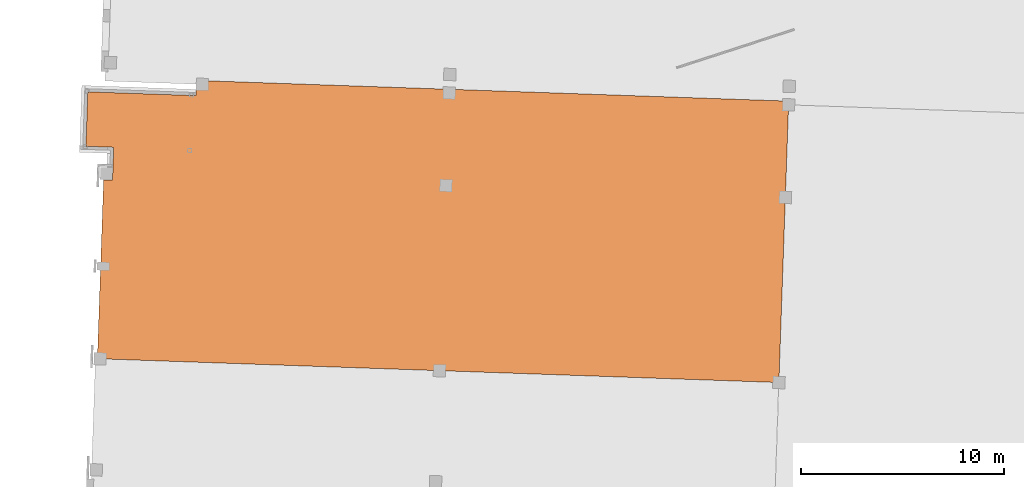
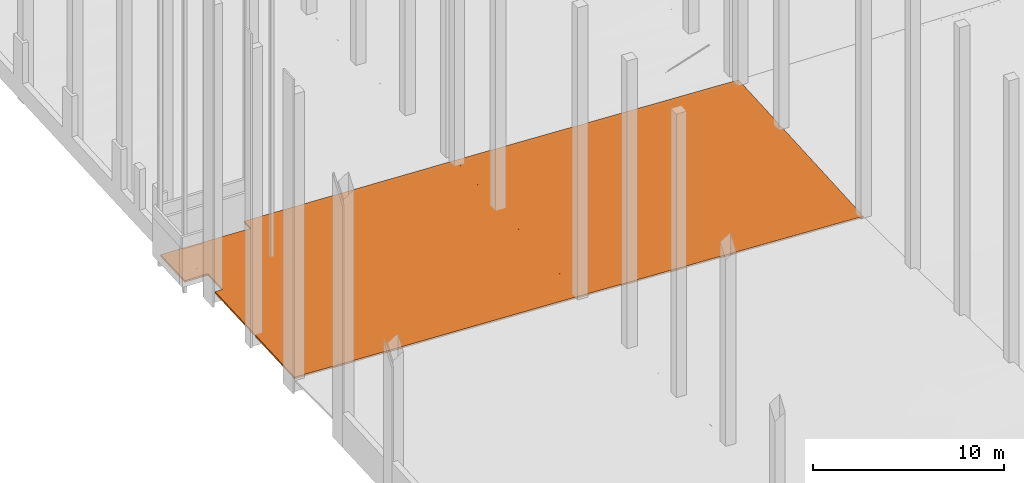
# One storey, part 44 of 44: 1 proxy.
"""IFC2X3 building model written with IfcOpenShell, lengths in feet."""

from ifc_helpers import new_model, entity, si_unit, converted_unit, derived_unit, direction, frame, origin, place, context, subcontext, project, spatial, faceted_brep, source, transform, mapped, material, type_object, type_shapes, element, save


model = new_model("IFC2X3")

# Units and contexts
model_context = context("Model", 3, precision=0.0001, world=origin(), true_north=direction((0.999390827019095, 0.0348994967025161)))
body_context = subcontext(model_context, "Body", "Model", "MODEL_VIEW")
ifc_project = project(units=[converted_unit("LENGTHUNIT", "FOOT", entity("IfcRatioMeasure", 0.3048), si_unit("LENGTHUNIT", "METRE"), dimensions=[1, 0, 0, 0, 0, 0, 0]), converted_unit("AREAUNIT", "SQUARE FOOT", entity("IfcRatioMeasure", 0.09290304), si_unit("AREAUNIT", "SQUARE_METRE"), dimensions=[2, 0, 0, 0, 0, 0, 0]), converted_unit("VOLUMEUNIT", "CUBIC FOOT", entity("IfcRatioMeasure", 0.028316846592), si_unit("VOLUMEUNIT", "CUBIC_METRE"), dimensions=[3, 0, 0, 0, 0, 0, 0]), converted_unit("PLANEANGLEUNIT", "DEGREE", entity("IfcRatioMeasure", 0.0174532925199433), si_unit("PLANEANGLEUNIT", "RADIAN"), dimensions=[0, 0, 0, 0, 0, 0, 0]), si_unit("MASSUNIT", "GRAM", prefix="KILO"), si_unit("TIMEUNIT", "SECOND"), si_unit("FREQUENCYUNIT", "HERTZ"), si_unit("THERMODYNAMICTEMPERATUREUNIT", "DEGREE_CELSIUS"), derived_unit("THERMALTRANSMITTANCEUNIT", [(si_unit("MASSUNIT", "GRAM", prefix="KILO"), 1), (si_unit("THERMODYNAMICTEMPERATUREUNIT", "KELVIN"), -1), (si_unit("TIMEUNIT", "SECOND"), -3)]), derived_unit("VOLUMETRICFLOWRATEUNIT", [(si_unit("LENGTHUNIT", "METRE"), 3), (si_unit("TIMEUNIT", "SECOND"), -1)]), si_unit("ELECTRICCURRENTUNIT", "AMPERE"), si_unit("ELECTRICVOLTAGEUNIT", "VOLT"), si_unit("POWERUNIT", "WATT"), si_unit("FORCEUNIT", "NEWTON"), si_unit("ILLUMINANCEUNIT", "LUX"), si_unit("LUMINOUSFLUXUNIT", "LUMEN"), si_unit("LUMINOUSINTENSITYUNIT", "CANDELA"), derived_unit("USERDEFINED", [(si_unit("MASSUNIT", "GRAM", prefix="KILO"), -1), (si_unit("LENGTHUNIT", "METRE"), -2), (si_unit("TIMEUNIT", "SECOND"), 3), (si_unit("LUMINOUSFLUXUNIT", "LUMEN"), 1)]), derived_unit("LINEARVELOCITYUNIT", [(si_unit("LENGTHUNIT", "METRE"), 1), (si_unit("TIMEUNIT", "SECOND"), -1)]), si_unit("PRESSUREUNIT", "PASCAL"), derived_unit("USERDEFINED", [(si_unit("LENGTHUNIT", "METRE"), -2), (si_unit("MASSUNIT", "GRAM", prefix="KILO"), 1), (si_unit("TIMEUNIT", "SECOND"), -2)])], contexts=[model_context])

# Site, building, storey
site_placement = place(None, frame((892.518771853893, 322.38689265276, 0.00393700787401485), z_axis=(0.0, 0.0, 1.0), x_axis=(0.0348994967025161, 0.999390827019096, 0.0)))
site = spatial("IfcSite", under=ifc_project, at=site_placement, Name="Default", CompositionType="ELEMENT")
building_placement = place(site_placement, origin())
building = spatial("IfcBuilding", under=site, at=building_placement, CompositionType="ELEMENT")
storey_placement = place(building_placement, frame((0.0, 0.0, 544.75)))
storey = spatial("IfcBuildingStorey", under=building, at=storey_placement, Name="Exist Garage - Ground Level", CompositionType="ELEMENT", Elevation=544.75)

# Proxy
ifc_material = material(Name="Conc Slab")
building_element_proxy_type = type_object("IfcBuildingElementProxyType", Name="URMC Exist Garage A15-D18", PredefinedType="NOTDEFINED", material=ifc_material)
shared_shape = source(origin(), body_context, "Body", "Brep", [
    faceted_brep([(34.3125, 3.49999999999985, 0.0), (34.3125, 0.0, 0.0), (43.1458333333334, 0.0, 0.0), (43.1458333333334, 3.49999999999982, 0.0), (34.3125, 3.49999999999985, -0.375000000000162), (43.1458333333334, 3.49999999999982, -0.375000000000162), (43.1458333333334, 0.0, -0.375000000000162), (34.3125, 0.0, -0.375000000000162)], [[[0, 1, 2, 3]], [[4, 5, 6, 7]], [[1, 0, 4, 7]], [[2, 1, 7, 6]], [[3, 2, 6, 5]], [[0, 3, 5, 4]]]),
    faceted_brep([(0.0, -55.0, -1.54500000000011), (0.0, -81.0696869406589, -2.21333197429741), (0.0, -110.0, -2.95500000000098), (0.0, -110.0, -2.58000000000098), (0.0, -81.0696890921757, -1.83833202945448), (0.0, -55.0, -1.17000000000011), (1.66666666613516, -55.0, -1.53861719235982), (3.33333333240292, -55.0, -1.53223441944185), (13.3333333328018, -55.0, -1.49393851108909), (15.0, -55.0, -1.48755598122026), (15.0, -81.0689919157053, -2.1309608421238), (15.0, -83.9310193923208, -2.2015981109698), (5.83339546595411, -82.4998818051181, -2.21743814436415), (3.33333332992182, -110.0, -2.93055568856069), (5.0, -55.0, -1.52585168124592), (6.66666666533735, -55.0, -1.51946897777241), (5.0, -110.0, -2.91833363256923), (6.66666666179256, -110.0, -2.90611164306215), (1.66666666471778, -110.0, -2.94277781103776), (8.33333333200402, -55.0, -1.51308630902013), (15.0, -110.0, -2.84500269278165), (13.3333333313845, -110.0, -2.85722434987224), (8.33333332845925, -110.0, -2.89388972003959), (10.0, -55.0, -1.50670367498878), (9.99988249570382, -82.5000001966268, -2.19418642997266), (11.6666666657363, -55.0, -1.5003210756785), (11.6666666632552, -110.0, -2.86944607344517), (10.0, -110.0, -2.881667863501), (16.6666666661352, -55.0, -1.48117348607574), (18.333333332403, -55.0, -1.474791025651), (28.3333333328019, -55.0, -1.436496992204), (30.0, -55.0, -1.43011477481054), (30.0, -81.0683100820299, -2.04859538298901), (30.0, -83.9317147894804, -2.11653075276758), (20.8333954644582, -82.4998818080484, -2.1337191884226), (18.3333333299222, -110.0, -2.82055957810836), (20.0, -55.0, -1.46840859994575), (21.6666666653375, -55.0, -1.46202620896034), (20.0, -110.0, -2.80833812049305), (21.6666666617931, -110.0, -2.79611672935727), (16.666666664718, -110.0, -2.83278110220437), (23.3333333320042, -55.0, -1.45564385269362), (30.0, -110.0, -2.73501077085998), (28.3333333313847, -110.0, -2.7472318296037), (23.3333333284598, -110.0, -2.78389540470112), (25.0, -55.0, -1.4492615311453), (24.9998824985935, -82.5000001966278, -2.11046849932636), (26.6666666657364, -55.0, -1.44287924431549), (26.6666666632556, -110.0, -2.75945295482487), (25.0, -110.0, -2.77167414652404), (31.6666666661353, -55.0, -1.42373259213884), (33.3333333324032, -55.0, -1.41735044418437), (43.3333333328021, -55.0, -1.37905828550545), (45.0, -55.0, -1.3726763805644), (45.0, -83.9323973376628, -2.03146593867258), (35.8333954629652, -82.4998818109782, -2.05000433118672), (33.333333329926, -110.0, -2.71056885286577), (35.0, -55.0, -1.41096833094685), (36.6666666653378, -55.0, -1.4045862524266), (35.0, -110.0, -2.69834799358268), (36.6666666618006, -110.0, -2.68612720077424), (31.6666666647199, -110.0, -2.72278977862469), (38.3333333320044, -55.0, -1.3982042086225), (45.0, -110.0, -2.62502423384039), (43.3333333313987, -110.0, -2.63724469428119), (38.333333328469, -110.0, -2.67390647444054), (40.0, -55.0, -1.39182219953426), (39.9998825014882, -82.5000001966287, -2.02675466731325), (41.6666666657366, -55.0, -1.38544022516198), (41.666666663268, -110.0, -2.64946522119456), (40.0, -110.0, -2.66168581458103), (45.6041666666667, -110.0, -2.6250242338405), (45.6041666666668, -55.0, -1.3726763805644), (45.6041666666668, -55.0, -0.997703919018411), (45.6041666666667, -110.0, -2.25005177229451), (45.0, -55.0, -0.997703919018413), (45.0, -83.9323980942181, -1.65649349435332), (45.0, -110.0, -2.25005177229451), (43.3333333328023, -55.0, -1.004084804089), (41.6666666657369, -55.0, -1.01046572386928), (31.6666666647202, -110.0, -2.34780915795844), (33.3333333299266, -110.0, -2.33558925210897), (35.0002073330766, -82.5000002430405, -1.67967843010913), (39.1667283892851, -82.4998817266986, -1.65642555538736), (41.6666666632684, -110.0, -2.27449071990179), (40.0, -55.0, -1.01684667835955), (38.3333333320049, -55.0, -1.02322766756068), (36.6666666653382, -55.0, -1.02960869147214), (40.0, -110.0, -2.28671029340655), (43.3333333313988, -110.0, -2.26227121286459), (38.3333333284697, -110.0, -2.29892993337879), (30.0, -55.0, -1.05513313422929), (30.0, -81.06831099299, -1.67361376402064), (31.6666666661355, -55.0, -1.04875197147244), (35.0, -55.0, -1.03598975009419), (33.3333333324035, -55.0, -1.04237084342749), (30.0, -83.9317162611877, -1.74154914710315), (30.0, -110.0, -2.36002913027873), (36.6666666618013, -110.0, -2.31114963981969), (35.0, -110.0, -2.32336941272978), (28.3333333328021, -55.0, -1.06151433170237), (26.6666666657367, -55.0, -1.06789556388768), (16.6666666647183, -110.0, -2.4577913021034), (18.3333333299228, -110.0, -2.44557079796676), (20.000207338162, -82.5000002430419, -1.76338444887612), (24.1667283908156, -82.4998817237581, -1.74013032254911), (26.6666666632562, -110.0, -2.38446927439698), (25.0, -55.0, -1.07427683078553), (23.3333333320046, -55.0, -1.08065813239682), (21.6666666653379, -55.0, -1.08703946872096), (25.0, -110.0, -2.39668944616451), (28.333333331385, -110.0, -2.3722491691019), (23.3333333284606, -110.0, -2.40890968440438), (15.0, -55.0, -1.11256516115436), (15.0, -81.0689936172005, -1.75597006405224), (16.6666666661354, -55.0, -1.10618368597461), (20.0, -55.0, -1.09342083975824), (18.3333333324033, -55.0, -1.09980224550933), (15.0, -83.9310212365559, -1.82660733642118), (15.0, -110.0, -2.47001187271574), (21.6666666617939, -110.0, -2.4211299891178), (20.0, -110.0, -2.43335036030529), (13.333333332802, -55.0, -1.1189466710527), (11.6666666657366, -55.0, -1.12532821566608), (1.6666666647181, -110.0, -2.56777883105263), (3.33333332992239, -110.0, -2.55555772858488), (5.0002073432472, -82.5000002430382, -1.84709456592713), (9.16672839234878, -82.4998817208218, -1.82383918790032), (11.6666666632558, -110.0, -2.49445321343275), (10.0, -55.0, -1.13170979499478), (8.33333333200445, -55.0, -1.138091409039), (6.66666666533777, -55.0, -1.14447305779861), (10.0, -110.0, -2.50667398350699), (13.3333333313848, -110.0, -2.48223250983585), (8.33333332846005, -110.0, -2.51889482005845), (1.66666666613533, -55.0, -1.16361821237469), (5.0, -55.0, -1.15085474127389), (3.33333333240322, -55.0, -1.15723645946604), (6.66666666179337, -110.0, -2.53111572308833), (5.0, -110.0, -2.54333669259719)], [[[0, 1, 2, 3, 4, 5]], [[6, 7, 1]], [[8, 9, 10, 11]], [[1, 12, 13]], [[12, 14, 15]], [[1, 7, 12]], [[7, 14, 12]], [[0, 6, 1]], [[16, 12, 17]], [[18, 1, 13]], [[12, 16, 13]], [[12, 15, 19]], [[18, 2, 1]], [[11, 20, 21]], [[22, 17, 12]], [[19, 23, 24]], [[11, 24, 8]], [[25, 8, 24]], [[11, 21, 26]], [[24, 23, 25]], [[24, 22, 12]], [[27, 22, 24]], [[24, 11, 26]], [[24, 26, 27]], [[19, 24, 12]], [[28, 29, 10]], [[30, 31, 32, 33]], [[10, 34, 35]], [[34, 36, 37]], [[10, 29, 34]], [[29, 36, 34]], [[9, 28, 10]], [[38, 34, 39]], [[40, 10, 35]], [[34, 38, 35]], [[34, 37, 41]], [[40, 20, 11, 10]], [[33, 42, 43]], [[44, 39, 34]], [[41, 45, 46]], [[33, 46, 30]], [[47, 30, 46]], [[33, 43, 48]], [[46, 45, 47]], [[46, 44, 34]], [[49, 44, 46]], [[46, 33, 48]], [[46, 48, 49]], [[41, 46, 34]], [[50, 51, 32]], [[52, 53, 54]], [[32, 55, 56]], [[55, 57, 58]], [[32, 51, 55]], [[51, 57, 55]], [[31, 50, 32]], [[59, 55, 60]], [[61, 32, 56]], [[55, 59, 56]], [[55, 58, 62]], [[61, 42, 33, 32]], [[54, 63, 64]], [[65, 60, 55]], [[62, 66, 67]], [[54, 67, 52]], [[68, 52, 67]], [[54, 64, 69]], [[67, 66, 68]], [[67, 65, 55]], [[70, 65, 67]], [[67, 54, 69]], [[67, 69, 70]], [[62, 67, 55]], [[71, 63, 54, 53, 72]], [[71, 72, 73, 74]], [[74, 73, 75, 76, 77]], [[76, 78, 79]], [[80, 81, 82]], [[76, 83, 84]], [[83, 85, 86]], [[79, 83, 76]], [[79, 85, 83]], [[83, 86, 87]], [[83, 88, 84]], [[89, 76, 84]], [[88, 83, 90]], [[76, 75, 78]], [[76, 89, 77]], [[91, 92, 93]], [[87, 94, 82]], [[82, 94, 95]], [[93, 92, 95]], [[82, 95, 92]], [[80, 92, 96, 97]], [[98, 82, 99]], [[87, 82, 83]], [[83, 82, 98]], [[80, 82, 92]], [[82, 81, 99]], [[98, 90, 83]], [[96, 100, 101]], [[102, 103, 104]], [[96, 105, 106]], [[105, 107, 108]], [[101, 105, 96]], [[101, 107, 105]], [[105, 108, 109]], [[105, 110, 106]], [[111, 96, 106]], [[110, 105, 112]], [[100, 96, 92, 91]], [[96, 111, 97]], [[113, 114, 115]], [[109, 116, 104]], [[104, 116, 117]], [[115, 114, 117]], [[104, 117, 114]], [[102, 114, 118, 119]], [[120, 104, 121]], [[109, 104, 105]], [[105, 104, 120]], [[102, 104, 114]], [[104, 103, 121]], [[120, 112, 105]], [[118, 122, 123]], [[124, 125, 126]], [[118, 127, 128]], [[127, 129, 130]], [[123, 127, 118]], [[123, 129, 127]], [[127, 130, 131]], [[127, 132, 128]], [[133, 118, 128]], [[132, 127, 134]], [[122, 118, 114, 113]], [[118, 133, 119]], [[5, 4, 135]], [[131, 136, 126]], [[126, 136, 137]], [[135, 4, 137]], [[126, 137, 4]], [[3, 124, 4]], [[138, 126, 139]], [[131, 126, 127]], [[127, 126, 138]], [[124, 126, 4]], [[126, 125, 139]], [[138, 134, 127]], [[89, 84, 88, 90, 98, 99, 81, 80, 97, 111, 106, 110, 112, 120, 121, 103, 102, 119, 133, 128, 132, 134, 138, 139, 125, 124, 3, 2, 18, 13, 16, 17, 22, 27, 26, 21, 20, 40, 35, 38, 39, 44, 49, 48, 43, 42, 61, 56, 59, 60, 65, 70, 69, 64, 63, 71, 74, 77]], [[29, 28, 9, 8, 25, 23, 19, 15, 14, 7, 6, 0, 5, 135, 137, 136, 131, 130, 129, 123, 122, 113, 115, 117, 116, 109, 108, 107, 101, 100, 91, 93, 95, 94, 87, 86, 85, 79, 78, 75, 73, 72, 53, 52, 68, 66, 62, 58, 57, 51, 50, 31, 30, 47, 45, 41, 37, 36]]]),
    faceted_brep([(15.0, -28.431350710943, -0.57524708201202), (13.3333333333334, 0.437500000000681, 0.00942037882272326), (11.6666666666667, 0.437500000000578, 0.0094061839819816), (1.66666666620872, -55.0, -1.16370462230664), (3.33333333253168, -55.0, -1.15740927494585), (5.000030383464, -27.2812502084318, -0.570882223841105), (9.16666657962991, -27.2812173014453, -0.56299477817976), (11.666666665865, -55.0, -1.12593299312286), (10.0, 0.437500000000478, 0.00939198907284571), (8.33333333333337, 0.43750000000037, 0.00937779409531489), (6.66666666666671, 0.437500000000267, 0.00936359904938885), (10.0, -55.0, -1.13222818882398), (13.3333333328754, -55.0, -1.11963782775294), (8.33333333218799, -55.0, -1.13852341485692), (15.0, 0.437499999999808, 0.00943457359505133), (15.0, -55.0, -1.11334269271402), (0.0, 0.437499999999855, 0.00930681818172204), (0.0, -26.131776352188, -0.555894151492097), (3.33333333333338, 0.437500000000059, 0.00933520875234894), (1.66666666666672, 0.437499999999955, 0.00932101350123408), (5.0, 0.437500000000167, 0.00934940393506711), (0.0, -55.0, -1.1700000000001), (6.66666666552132, -55.0, -1.14481867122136), (5.0, -55.0, -1.15111395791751), (0.0, 0.437499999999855, -0.365693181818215), (0.0, -26.1317752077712, -0.930894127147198), (0.0, -55.0, -1.54500000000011), (3.33333333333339, 0.437500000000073, -0.365662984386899), (5.0, 0.437500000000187, -0.365647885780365), (6.66666666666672, 0.437500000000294, -0.365632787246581), (8.33333333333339, 0.437500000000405, -0.365617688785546), (5.83333365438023, -27.2812173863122, -0.944301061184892), (13.3333333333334, 0.437500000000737, -0.365572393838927), (15.0, 0.437499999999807, -0.365557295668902), (15.0, -28.4313481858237, -0.950238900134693), (3.33333333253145, -55.0, -1.53240746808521), (1.66666666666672, 0.437499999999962, -0.365678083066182), (5.0, -55.0, -1.52611124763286), (6.66666666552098, -55.0, -1.51981505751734), (1.66666666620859, -55.0, -1.53870371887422), (15.0, -55.0, -1.48833456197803), (13.3333333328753, -55.0, -1.49463060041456), (8.33333333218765, -55.0, -1.5135188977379), (10.0, 0.437500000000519, -0.365602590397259), (9.9999397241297, -27.2812502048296, -0.936412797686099), (11.6666666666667, 0.437500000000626, -0.365587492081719), (11.6666666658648, -55.0, -1.50092666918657), (10.0, -55.0, -1.5072227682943), (16.5555555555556, 0.437499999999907, -0.365543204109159), (19.2132856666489, -27.4462170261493, -0.922262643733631), (22.7777777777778, 0.437500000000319, -0.365486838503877), (24.3333333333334, 0.437500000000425, -0.365472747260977), (23.5555557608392, -27.0595037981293, -0.906385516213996), (21.6666666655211, -55.0, -1.46315071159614), (20.0, -55.0, -1.46944662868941), (21.2222222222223, 0.437500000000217, -0.365500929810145), (27.4444444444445, 0.437500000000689, -0.365444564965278), (30.0, -29.869460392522, -0.948326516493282), (18.1111111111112, 0.43750000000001, -0.365529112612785), (19.6666666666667, 0.437500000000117, -0.365515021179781), (16.6666666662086, -55.0, -1.48203855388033), (25.8888888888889, 0.437500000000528, -0.365458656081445), (18.3333333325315, -55.0, -1.47574257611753), (25.0, -55.0, -1.45055896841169), (23.3333333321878, -55.0, -1.45685482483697), (29.0, 0.437500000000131, -0.365430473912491), (29.0, 0.197916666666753, -0.370054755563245), (29.0, -0.0416666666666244, -0.374679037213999), (29.0, -0.281250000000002, -0.379303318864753), (29.0, -0.52083333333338, -0.383927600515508), (29.0, -0.760416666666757, -0.388551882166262), (29.0, -1.0, -0.393176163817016), (28.3333333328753, -55.0, -1.43796734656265), (26.6666666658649, -55.0, -1.4442631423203), (29.75, -1.0, -0.393096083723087), (30.0, -1.0, -0.393069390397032), (29.25, -1.0, -0.39314947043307), (29.5, -1.0, -0.393122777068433), (30.0, -55.0, -1.43167158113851), (33.3541666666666, -1.0, -0.392711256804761), (33.8333333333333, -1.0, -0.392660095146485), (34.0872849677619, -28.4486950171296, -0.91293782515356), (32.875, -1.0, -0.392762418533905), (38.1770839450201, -27.3889600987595, -0.885077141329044), (36.6666666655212, -55.0, -1.40648882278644), (35.0, -55.0, -1.41278446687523), (33.3333333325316, -55.0, -1.41908014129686), (38.7291666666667, 0.0, -0.373497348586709), (37.625, 0.0, -0.373540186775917), (36.5208333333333, 0.0, -0.373583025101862), (35.4166666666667, 0.0, -0.373625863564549), (34.3125000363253, -0.999999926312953, -0.392608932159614), (34.3125, 0.0, -0.373668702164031), (39.8333333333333, 0.0, -0.373454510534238), (40.9375, 0.0, -0.373411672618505), (32.3958333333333, -1.0, -0.392813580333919), (31.9166666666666, -1.0, -0.392864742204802), (31.4375, -1.0, -0.392915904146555), (30.9583333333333, -1.0, -0.392967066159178), (30.4791666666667, -1.0, -0.39301822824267), (40.0, -55.0, -1.39389762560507), (38.3333333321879, -55.0, -1.40019320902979), (31.6666666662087, -55.0, -1.42537584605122), (41.6666666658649, -55.0, -1.38760207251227), (43.1458333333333, -14.0, -0.630083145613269), (42.0416666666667, 0.0, -0.373368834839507), (43.1458333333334, -10.888888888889, -0.573026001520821), (43.1458333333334, -12.4444444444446, -0.601554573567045), (43.1458333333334, -9.33333333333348, -0.544497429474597), (43.1458333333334, 0.0, -0.373325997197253), (43.1458333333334, -1.55555555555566, -0.401854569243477), (43.1458333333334, -3.11111111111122, -0.430383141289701), (43.1458333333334, -4.66666666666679, -0.458911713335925), (43.1458333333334, -6.22222222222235, -0.487440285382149), (43.1458333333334, -7.77777777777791, -0.515968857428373), (43.3333333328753, -55.0, -1.38130654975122), (43.3776041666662, -14.0, -0.629853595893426), (43.6093749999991, -14.0, -0.629624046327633), (43.8411458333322, -14.0, -0.629394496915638), (44.0729166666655, -14.0, -0.629164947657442), (45.0, -55.0, -1.3750110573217), (44.5364583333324, -14.0, -0.628705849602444), (44.7682291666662, -14.0, -0.628476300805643), (45.0, -14.0, -0.628246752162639), (44.3046874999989, -14.0, -0.628935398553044), (45.6041666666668, -14.0, -0.628246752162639), (45.6041666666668, -55.0, -1.37501105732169), (45.6041666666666, -14.0, -0.253271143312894), (45.6041666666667, -55.0, -1.00003544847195), (45.0, -14.0, -0.253271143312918), (45.0, -55.0, -1.00003544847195), (42.0416666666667, 0.0, 0.00160837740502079), (43.1458333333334, -3.11111111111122, -0.0554065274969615), (43.1458333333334, -1.55555555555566, -0.0268779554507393), (43.1458333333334, -4.66666666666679, -0.0839350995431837), (43.1458333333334, -6.22222222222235, -0.112463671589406), (43.1458333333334, 0.0, 0.00165061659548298), (43.1458333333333, -9.33333333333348, -0.169520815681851), (43.1458333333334, -7.77777777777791, -0.140992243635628), (43.1458333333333, -10.888888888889, -0.198049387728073), (40.9375, 0.0, 0.00156613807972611), (43.1458333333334, -12.4444444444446, -0.226577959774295), (38.3333333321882, -55.0, -1.02521398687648), (40.0, -55.0, -1.01891930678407), (39.2812503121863, -27.5838491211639, -0.511625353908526), (34.1666172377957, -28.2715123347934, -0.53444221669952), (34.3125, -1.0, -0.0176275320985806), (33.8333333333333, -1.0, -0.0176784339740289), (43.1458333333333, -14.0, -0.255106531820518), (44.7682291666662, -14.0, -0.253500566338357), (44.5364583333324, -14.0, -0.253729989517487), (44.3046874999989, -14.0, -0.253959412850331), (44.0729166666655, -14.0, -0.254188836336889), (43.3333333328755, -55.0, -1.00633003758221), (43.8411458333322, -14.0, -0.254418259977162), (43.6093749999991, -14.0, -0.254647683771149), (35.0, -55.0, -1.03780343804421), (36.6666666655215, -55.0, -1.03150869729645), (43.3776041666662, -14.0, -0.254877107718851), (41.6666666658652, -55.0, -1.01262465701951), (30.4791666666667, -1.0, -0.0180347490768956), (30.0, -1.0, -0.0180856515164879), (30.0, -29.8694313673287, -0.573342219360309), (39.8333333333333, 0.0, 0.00152389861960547), (38.7291666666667, 0.0, 0.001481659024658), (35.4166666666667, 0.0, 0.00135493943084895), (36.5208333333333, 0.0, 0.00139717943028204), (37.625, 0.0, 0.00143941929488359), (33.3541666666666, -1.0, -0.0177293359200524), (32.875, -1.0, -0.0177802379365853), (34.3125000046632, 2.64011889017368e-08, 0.00131269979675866), (32.3958333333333, -1.0, -0.0178311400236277), (31.9166666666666, -1.0, -0.0178820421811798), (31.4375, -1.0, -0.0179329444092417), (33.3333333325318, -55.0, -1.0440982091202), (30.9583333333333, -1.0, -0.0179838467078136), (31.6666666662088, -55.0, -1.05039301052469), (30.0, -55.0, -1.0566878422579), (29.0, 0.197916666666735, 0.00492952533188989), (29.0, 0.437500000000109, 0.00955380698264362), (27.4444444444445, 0.437500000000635, 0.00954055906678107), (29.0, -1.0, -0.0181918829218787), (29.0, -0.760416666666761, -0.013567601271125), (29.0, -0.520833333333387, -0.00894331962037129), (29.0, -0.281250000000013, -0.00431903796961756), (29.0, -0.041666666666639, 0.000305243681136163), (29.75, -1.0, -0.018112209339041), (20.4444444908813, -27.1186490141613, -0.538415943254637), (19.6666666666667, 0.437500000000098, 0.00947431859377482), (18.1111111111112, 0.437499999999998, 0.00946107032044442), (29.5, -1.0, -0.0181387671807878), (29.25, -1.0, -0.0181653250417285), (25.1111109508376, -27.0447155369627, -0.528188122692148), (25.8888888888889, 0.437500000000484, 0.00952731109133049), (25.0, -55.0, -1.07557251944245), (26.6666666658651, -55.0, -1.06927759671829), (28.3333333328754, -55.0, -1.06298270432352), (24.3333333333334, 0.437500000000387, 0.00951406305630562), (22.7777777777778, 0.437500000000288, 0.00950081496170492), (21.6666666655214, -55.0, -1.08816245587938), (20.0, -55.0, -1.09445746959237), (21.2222222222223, 0.437500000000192, 0.00948756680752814), (16.5555555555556, 0.437499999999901, 0.00944782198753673), (23.3333333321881, -55.0, -1.08186747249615), (18.3333333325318, -55.0, -1.10075251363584), (16.6666666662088, -55.0, -1.10704758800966)], [[[0, 1, 2]], [[3, 4, 5]], [[0, 6, 7]], [[6, 8, 9]], [[2, 6, 0]], [[2, 8, 6]], [[6, 9, 10]], [[6, 11, 7]], [[12, 0, 7]], [[11, 6, 13]], [[0, 14, 1]], [[0, 12, 15]], [[16, 17, 18, 19]], [[10, 20, 5]], [[5, 20, 18]], [[5, 18, 17]], [[21, 3, 17]], [[22, 5, 23]], [[10, 5, 6]], [[6, 5, 22]], [[3, 5, 17]], [[5, 4, 23]], [[22, 13, 6]], [[24, 25, 26, 21, 17, 16]], [[27, 28, 29, 30, 31]], [[32, 33, 34]], [[25, 31, 35]], [[25, 27, 31]], [[25, 24, 36, 27]], [[37, 31, 38]], [[39, 25, 35]], [[31, 37, 35]], [[39, 26, 25]], [[34, 40, 41]], [[42, 38, 31]], [[30, 43, 44]], [[34, 44, 32]], [[45, 32, 44, 43]], [[34, 41, 46]], [[44, 42, 31]], [[47, 42, 44]], [[44, 34, 46]], [[44, 46, 47]], [[30, 44, 31]], [[48, 49, 34]], [[50, 51, 52]], [[53, 54, 49]], [[55, 50, 52]], [[56, 57, 52]], [[49, 58, 59]], [[60, 40, 34]], [[48, 58, 49]], [[48, 34, 33]], [[49, 59, 55]], [[52, 51, 61]], [[62, 60, 49]], [[60, 34, 49]], [[53, 49, 52]], [[63, 64, 52]], [[52, 61, 56]], [[56, 65, 66, 67, 68, 69, 70, 71]], [[72, 73, 57]], [[62, 49, 54]], [[53, 52, 64]], [[74, 75, 57]], [[76, 77, 57]], [[73, 52, 57]], [[52, 73, 63]], [[57, 71, 76]], [[52, 49, 55]], [[74, 57, 77]], [[57, 78, 72]], [[57, 56, 71]], [[79, 80, 81]], [[82, 79, 81]], [[83, 84, 81]], [[85, 86, 81]], [[87, 83, 88]], [[89, 83, 81]], [[90, 91, 92]], [[88, 83, 89]], [[83, 93, 94]], [[81, 90, 89]], [[95, 81, 96]], [[96, 57, 97]], [[97, 57, 98]], [[75, 99, 57]], [[81, 95, 82]], [[85, 81, 84]], [[83, 100, 101]], [[86, 102, 81]], [[78, 57, 102]], [[98, 57, 99]], [[83, 87, 93]], [[103, 83, 104]], [[94, 105, 106]], [[84, 83, 101]], [[106, 107, 104, 94]], [[108, 106, 105, 109, 110, 111, 112, 113, 114]], [[90, 81, 91]], [[115, 116, 117]], [[57, 81, 102]], [[81, 57, 96]], [[115, 117, 118]], [[103, 104, 115]], [[100, 83, 103]], [[115, 104, 116]], [[118, 119, 115]], [[91, 81, 80]], [[120, 121, 122]], [[120, 122, 123]], [[119, 124, 120]], [[120, 124, 121]], [[119, 120, 115]], [[83, 94, 104]], [[120, 123, 125, 126]], [[126, 125, 127, 128]], [[128, 127, 129, 130]], [[131, 132, 133]], [[134, 131, 135]], [[132, 131, 134]], [[133, 136, 131]], [[137, 138, 131]], [[131, 138, 135]], [[139, 131, 140]], [[131, 139, 137]], [[139, 140, 141]], [[142, 143, 144]], [[145, 146, 147]], [[140, 148, 141]], [[130, 129, 149]], [[130, 149, 150]], [[130, 151, 152]], [[151, 130, 150]], [[130, 152, 153]], [[153, 154, 155]], [[145, 156, 157]], [[144, 145, 157]], [[153, 155, 158]], [[153, 148, 159]], [[148, 153, 158]], [[159, 148, 144]], [[160, 161, 162]], [[154, 153, 152]], [[140, 163, 144]], [[144, 163, 164]], [[165, 146, 145]], [[165, 145, 166]], [[167, 144, 164]], [[168, 169, 145]], [[170, 146, 165]], [[171, 172, 145]], [[171, 145, 169]], [[172, 162, 145]], [[166, 145, 144]], [[159, 144, 143]], [[172, 173, 162]], [[144, 167, 166]], [[144, 157, 142]], [[168, 145, 147]], [[174, 156, 145]], [[175, 160, 162]], [[176, 162, 177]], [[145, 162, 176]], [[176, 174, 145]], [[175, 162, 173]], [[148, 140, 144]], [[178, 179, 180, 181, 182, 183, 184, 185]], [[162, 161, 186]], [[187, 188, 189]], [[0, 187, 189]], [[190, 162, 186]], [[181, 180, 162]], [[162, 191, 181]], [[192, 180, 193]], [[190, 191, 162]], [[192, 194, 195]], [[162, 180, 192]], [[177, 162, 196]], [[192, 197, 198]], [[199, 187, 200]], [[192, 195, 162]], [[192, 193, 197]], [[201, 187, 198]], [[187, 201, 188]], [[202, 0, 189]], [[198, 187, 192]], [[192, 187, 203]], [[187, 199, 203]], [[192, 203, 194]], [[204, 187, 0]], [[202, 14, 0]], [[200, 187, 204]], [[15, 205, 0]], [[0, 205, 204]], [[195, 196, 162]], [[1, 14, 202, 189, 188, 201, 198, 197, 193, 180, 179, 65, 56, 61, 51, 50, 55, 59, 58, 48, 33, 32, 45, 43, 30, 29, 28, 27, 36, 24, 16, 19, 18, 20, 10, 9, 8, 2]], [[153, 159, 143, 142, 157, 156, 174, 176, 177, 196, 195, 194, 203, 199, 200, 204, 205, 15, 12, 7, 11, 13, 22, 23, 4, 3, 21, 26, 39, 35, 37, 38, 42, 47, 46, 41, 40, 60, 62, 54, 53, 64, 63, 73, 72, 78, 102, 86, 85, 84, 101, 100, 103, 115, 120, 126, 128, 130]], [[184, 183, 182, 181, 71, 70, 69, 68, 67, 66, 65, 179, 178, 185]], [[175, 173, 172, 171, 169, 168, 147, 80, 79, 82, 95, 96, 97, 98, 99, 75, 74, 77, 76, 71, 181, 191, 190, 186, 161, 160]], [[146, 91, 147]], [[147, 91, 80]], [[92, 146, 170]], [[146, 92, 91]], [[151, 150, 149, 129, 127, 125, 123, 122, 121, 124, 119, 118, 117, 116, 104, 148, 158, 155, 154, 152]], [[133, 132, 134, 135, 138, 137, 139, 141, 148, 104, 107, 106, 108, 114, 113, 112, 111, 110, 109, 136]], [[167, 164, 163, 140, 131, 136, 109, 105, 94, 93, 87, 88, 89, 90, 165, 166]], [[90, 170, 165]], [[92, 170, 90]]]),
])
type_shapes(building_element_proxy_type, [shared_shape])
proxy_placement = place(storey_placement, frame((57.9272542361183, 456.76395347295, 2.24044619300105)))
element("IfcBuildingElementProxy", 1, at=proxy_placement, inside=storey, type_object=building_element_proxy_type, material=ifc_material, Name="URMC Exist Garage A15-D18:URMC Exist Garage A15-D18", ObjectType="URMC Exist Garage A15-D18", context=body_context, shape_type="MappedRepresentation", body=[
    mapped(shared_shape, transform((0.0, 0.0, 0.0), scale=1.0)),
])

save(model, "model.ifc")
